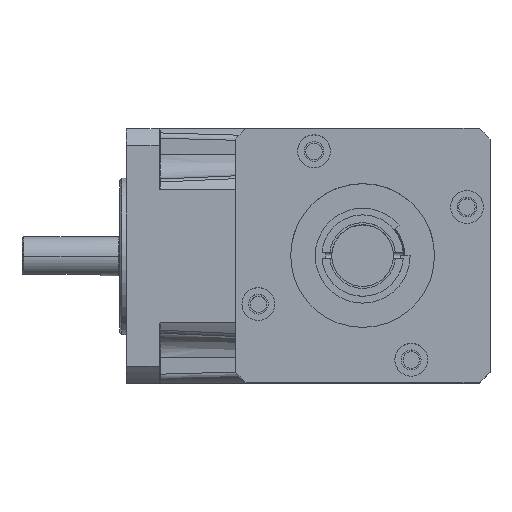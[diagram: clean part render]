
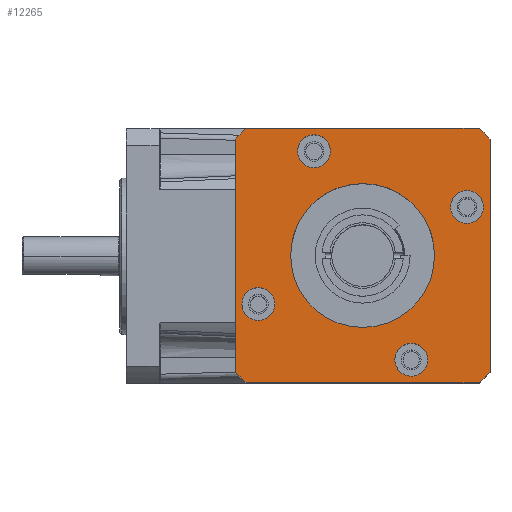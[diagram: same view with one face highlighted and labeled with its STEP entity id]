
A CAD part, top view. The second image highlights one B-rep face of the part: STEP entity #12265.
In plain terms, the highlighted planar face has unit normal (0, 0, 1).
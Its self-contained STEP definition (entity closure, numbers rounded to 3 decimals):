
#11597=CARTESIAN_POINT('',(0.,0.,147.2));
#11598=DIRECTION('',(0.,0.,-1.));
#11599=DIRECTION('',(0.738,-0.675,0.));
#11600=AXIS2_PLACEMENT_3D('',#11597,#11598,#11599);
#11602=DIRECTION('',(-1.,0.,0.));
#11603=VECTOR('',#11602,56.675);
#11604=CARTESIAN_POINT('',(28.337,-31.,147.2));
#11605=LINE('',#11604,#11603);
#11606=CARTESIAN_POINT('',(0.,0.,147.2));
#11607=DIRECTION('',(0.,0.,-1.));
#11608=DIRECTION('',(-0.675,-0.738,0.));
#11609=AXIS2_PLACEMENT_3D('',#11606,#11607,#11608);
#11611=DIRECTION('',(0.,1.,0.));
#11612=VECTOR('',#11611,56.675);
#11613=CARTESIAN_POINT('',(-31.,-28.337,147.2));
#11614=LINE('',#11613,#11612);
#11615=CARTESIAN_POINT('',(0.,0.,147.2));
#11616=DIRECTION('',(0.,0.,-1.));
#11617=DIRECTION('',(-0.738,0.675,0.));
#11618=AXIS2_PLACEMENT_3D('',#11615,#11616,#11617);
#11620=DIRECTION('',(1.,0.,0.));
#11621=VECTOR('',#11620,56.675);
#11622=CARTESIAN_POINT('',(-28.337,31.,147.2));
#11623=LINE('',#11622,#11621);
#11624=CARTESIAN_POINT('',(0.,0.,147.2));
#11625=DIRECTION('',(0.,0.,-1.));
#11626=DIRECTION('',(0.675,0.738,0.));
#11627=AXIS2_PLACEMENT_3D('',#11624,#11625,#11626);
#11629=DIRECTION('',(0.,-1.,0.));
#11630=VECTOR('',#11629,56.675);
#11631=CARTESIAN_POINT('',(31.,28.337,147.2));
#11632=LINE('',#11631,#11630);
#11633=CARTESIAN_POINT('',(0.,0.,147.2));
#11634=DIRECTION('',(0.,0.,1.));
#11635=DIRECTION('',(1.,0.,0.));
#11636=AXIS2_PLACEMENT_3D('',#11633,#11634,#11635);
#11638=CARTESIAN_POINT('',(0.,0.,147.2));
#11639=DIRECTION('',(0.,0.,1.));
#11640=DIRECTION('',(-1.,0.,0.));
#11641=AXIS2_PLACEMENT_3D('',#11638,#11639,#11640);
#11643=CARTESIAN_POINT('',(25.377,11.833,147.2));
#11644=DIRECTION('',(0.,0.,-1.));
#11645=DIRECTION('',(-1.,0.,0.));
#11646=AXIS2_PLACEMENT_3D('',#11643,#11644,#11645);
#11648=CARTESIAN_POINT('',(25.377,11.833,147.2));
#11649=DIRECTION('',(0.,0.,-1.));
#11650=DIRECTION('',(1.,0.,0.));
#11651=AXIS2_PLACEMENT_3D('',#11648,#11649,#11650);
#11653=CARTESIAN_POINT('',(-11.833,25.377,147.2));
#11654=DIRECTION('',(0.,0.,-1.));
#11655=DIRECTION('',(-1.,0.,0.));
#11656=AXIS2_PLACEMENT_3D('',#11653,#11654,#11655);
#11658=CARTESIAN_POINT('',(-11.833,25.377,147.2));
#11659=DIRECTION('',(0.,0.,-1.));
#11660=DIRECTION('',(1.,0.,0.));
#11661=AXIS2_PLACEMENT_3D('',#11658,#11659,#11660);
#11663=CARTESIAN_POINT('',(-25.377,-11.833,147.2));
#11664=DIRECTION('',(0.,0.,-1.));
#11665=DIRECTION('',(-1.,0.,0.));
#11666=AXIS2_PLACEMENT_3D('',#11663,#11664,#11665);
#11668=CARTESIAN_POINT('',(-25.377,-11.833,147.2));
#11669=DIRECTION('',(0.,0.,-1.));
#11670=DIRECTION('',(1.,0.,0.));
#11671=AXIS2_PLACEMENT_3D('',#11668,#11669,#11670);
#11673=CARTESIAN_POINT('',(11.833,-25.377,147.2));
#11674=DIRECTION('',(0.,0.,-1.));
#11675=DIRECTION('',(1.,0.,0.));
#11676=AXIS2_PLACEMENT_3D('',#11673,#11674,#11675);
#11678=CARTESIAN_POINT('',(11.833,-25.377,147.2));
#11679=DIRECTION('',(0.,0.,-1.));
#11680=DIRECTION('',(-1.,0.,0.));
#11681=AXIS2_PLACEMENT_3D('',#11678,#11679,#11680);
#12084=CARTESIAN_POINT('',(31.,-28.337,147.2));
#12085=CARTESIAN_POINT('',(28.337,-31.,147.2));
#12086=VERTEX_POINT('',#12084);
#12087=VERTEX_POINT('',#12085);
#12088=CARTESIAN_POINT('',(-28.337,-31.,147.2));
#12089=CARTESIAN_POINT('',(-31.,-28.337,147.2));
#12090=VERTEX_POINT('',#12088);
#12091=VERTEX_POINT('',#12089);
#12092=CARTESIAN_POINT('',(-31.,28.337,147.2));
#12093=CARTESIAN_POINT('',(-28.337,31.,147.2));
#12094=VERTEX_POINT('',#12092);
#12095=VERTEX_POINT('',#12093);
#12096=CARTESIAN_POINT('',(28.337,31.,147.2));
#12097=CARTESIAN_POINT('',(31.,28.337,147.2));
#12098=VERTEX_POINT('',#12096);
#12099=VERTEX_POINT('',#12097);
#12116=CARTESIAN_POINT('',(17.5,0.,147.2));
#12117=CARTESIAN_POINT('',(-17.5,0.,147.2));
#12118=VERTEX_POINT('',#12116);
#12119=VERTEX_POINT('',#12117);
#12140=CARTESIAN_POINT('',(21.377,11.833,147.2));
#12141=CARTESIAN_POINT('',(29.377,11.833,147.2));
#12142=VERTEX_POINT('',#12140);
#12143=VERTEX_POINT('',#12141);
#12156=CARTESIAN_POINT('',(-15.833,25.377,147.2));
#12157=VERTEX_POINT('',#12156);
#12158=CARTESIAN_POINT('',(-7.833,25.377,147.2));
#12159=VERTEX_POINT('',#12158);
#12168=CARTESIAN_POINT('',(-29.377,-11.833,147.2));
#12169=VERTEX_POINT('',#12168);
#12170=CARTESIAN_POINT('',(-21.377,-11.833,147.2));
#12171=VERTEX_POINT('',#12170);
#12180=CARTESIAN_POINT('',(7.833,-25.377,147.2));
#12181=VERTEX_POINT('',#12180);
#12182=CARTESIAN_POINT('',(15.833,-25.377,147.2));
#12183=VERTEX_POINT('',#12182);
#12212=CARTESIAN_POINT('',(0.,0.,147.2));
#12213=DIRECTION('',(0.,0.,-1.));
#12214=DIRECTION('',(-1.,0.,0.));
#12215=AXIS2_PLACEMENT_3D('',#12212,#12213,#12214);
#12216=PLANE('',#12215);
#12218=ORIENTED_EDGE('',*,*,#12217,.T.);
#12220=ORIENTED_EDGE('',*,*,#12219,.T.);
#12222=ORIENTED_EDGE('',*,*,#12221,.T.);
#12224=ORIENTED_EDGE('',*,*,#12223,.T.);
#12226=ORIENTED_EDGE('',*,*,#12225,.T.);
#12228=ORIENTED_EDGE('',*,*,#12227,.T.);
#12230=ORIENTED_EDGE('',*,*,#12229,.T.);
#12232=ORIENTED_EDGE('',*,*,#12231,.T.);
#12233=EDGE_LOOP('',(#12218,#12220,#12222,#12224,#12226,#12228,#12230,#12232));
#12234=FACE_OUTER_BOUND('',#12233,.F.);
#12236=ORIENTED_EDGE('',*,*,#12235,.T.);
#12238=ORIENTED_EDGE('',*,*,#12237,.T.);
#12239=EDGE_LOOP('',(#12236,#12238));
#12240=FACE_BOUND('',#12239,.F.);
#12242=ORIENTED_EDGE('',*,*,#12241,.F.);
#12244=ORIENTED_EDGE('',*,*,#12243,.F.);
#12245=EDGE_LOOP('',(#12242,#12244));
#12246=FACE_BOUND('',#12245,.F.);
#12248=ORIENTED_EDGE('',*,*,#12247,.F.);
#12250=ORIENTED_EDGE('',*,*,#12249,.F.);
#12251=EDGE_LOOP('',(#12248,#12250));
#12252=FACE_BOUND('',#12251,.F.);
#12254=ORIENTED_EDGE('',*,*,#12253,.F.);
#12256=ORIENTED_EDGE('',*,*,#12255,.F.);
#12257=EDGE_LOOP('',(#12254,#12256));
#12258=FACE_BOUND('',#12257,.F.);
#12260=ORIENTED_EDGE('',*,*,#12259,.F.);
#12262=ORIENTED_EDGE('',*,*,#12261,.F.);
#12263=EDGE_LOOP('',(#12260,#12262));
#12264=FACE_BOUND('',#12263,.F.);
#12265=ADVANCED_FACE('',(#12234,#12240,#12246,#12252,#12258,#12264),#12216,.F.);
#11601=CIRCLE('',#11600,42.);
#11610=CIRCLE('',#11609,42.);
#11619=CIRCLE('',#11618,42.);
#11628=CIRCLE('',#11627,42.);
#11637=CIRCLE('',#11636,17.5);
#11642=CIRCLE('',#11641,17.5);
#11647=CIRCLE('',#11646,4.);
#11652=CIRCLE('',#11651,4.);
#11657=CIRCLE('',#11656,4.);
#11662=CIRCLE('',#11661,4.);
#11667=CIRCLE('',#11666,4.);
#11672=CIRCLE('',#11671,4.);
#11677=CIRCLE('',#11676,4.);
#11682=CIRCLE('',#11681,4.);
#12217=EDGE_CURVE('',#12086,#12087,#11601,.T.);
#12219=EDGE_CURVE('',#12087,#12090,#11605,.T.);
#12221=EDGE_CURVE('',#12090,#12091,#11610,.T.);
#12223=EDGE_CURVE('',#12091,#12094,#11614,.T.);
#12225=EDGE_CURVE('',#12094,#12095,#11619,.T.);
#12227=EDGE_CURVE('',#12095,#12098,#11623,.T.);
#12229=EDGE_CURVE('',#12098,#12099,#11628,.T.);
#12231=EDGE_CURVE('',#12099,#12086,#11632,.T.);
#12235=EDGE_CURVE('',#12118,#12119,#11637,.T.);
#12237=EDGE_CURVE('',#12119,#12118,#11642,.T.);
#12241=EDGE_CURVE('',#12142,#12143,#11647,.T.);
#12243=EDGE_CURVE('',#12143,#12142,#11652,.T.);
#12247=EDGE_CURVE('',#12157,#12159,#11657,.T.);
#12249=EDGE_CURVE('',#12159,#12157,#11662,.T.);
#12253=EDGE_CURVE('',#12169,#12171,#11667,.T.);
#12255=EDGE_CURVE('',#12171,#12169,#11672,.T.);
#12259=EDGE_CURVE('',#12183,#12181,#11677,.T.);
#12261=EDGE_CURVE('',#12181,#12183,#11682,.T.);
